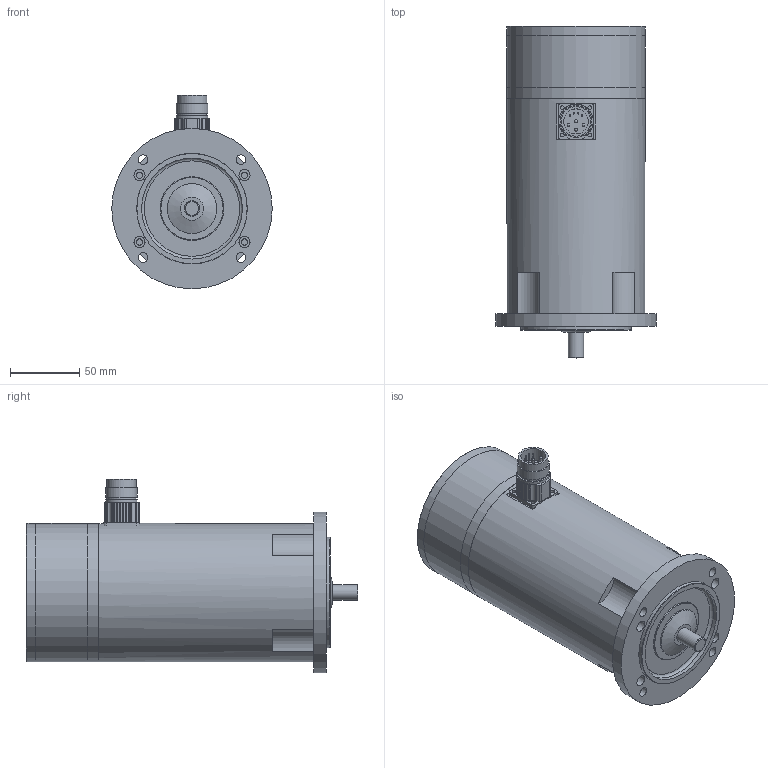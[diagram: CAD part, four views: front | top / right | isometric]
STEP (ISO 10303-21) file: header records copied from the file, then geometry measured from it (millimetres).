
FILE_DESCRIPTION(/* description */ (''),/* implementation_level */ '2;1');
FILE_NAME(/* name */ 'ksa_3x8e_mc',/* time_stamp */ '2007-03-13T10:00:46+01:00',/* author */ (''),/* organization */ (''),/* preprocessor_version */ 'ST-DEVELOPER v8',/* originating_system */ 'UNIGRAPHICS SOLUTIONS - UNIGRAPHICS 18.0',/* authorisation */ '');
FILE_SCHEMA (('AUTOMOTIVE_DESIGN { 1 2 10303 214 0 1 1 1 }'));
Length unit declared in the file: millimetre
Products named in the file (10): 064304_0; 089283_0; 113057_0; 014260_0; 06331101_0; DIN3760_org_A15x30x7_0; Rotor_SA 34.. E_0; Gehaeuse SA 34.. E_0; 113044_0; KSA328_E-MC_0
Assembly tree (9 placements, depth 2):
  KSA328_E-MC_0
    113044_0
    Gehaeuse SA 34.. E_0
    Rotor_SA 34.. E_0
    DIN3760_org_A15x30x7_0
    06331101_0
    014260_0
    113057_0
    089283_0
    064304_0
Bounding box: 116 x 240 x 140 mm (x, y, z)
Volume: 753355.1 mm3; surface area: 202958.3 mm2
Topology: 9 solids, 9 shells, 211 faces, 507 edges, 329 vertices
Faces by surface type: cylinder 118, plane 60, torus 15, cone 10, sphere 8
Full cylindrical faces by diameter (mm): 1 x4, 2 x4, 2.7 x4, 4.5 x4, 7 x4, 8 x4, 10.52 x1, 10.9 x1, 11 x1, 15 x2, 15.5 x1, 18 x1, 20 x2, 21 x1, 21.5 x1, 23 x2, 25 x1, 27 x1, 30 x3, 35 x1, 36 x1, 45 x1, 73 x1, 74 x1, 80 x2, 81 x2, 100 x4, 116 x1
Entity records: 5804 total; most frequent: DIRECTION 1092, CARTESIAN_POINT 916, ORIENTED_EDGE 742, AXIS2_PLACEMENT_3D 501, EDGE_CURVE 371, EDGE_LOOP 360, VERTEX_POINT 291, CIRCLE 280
